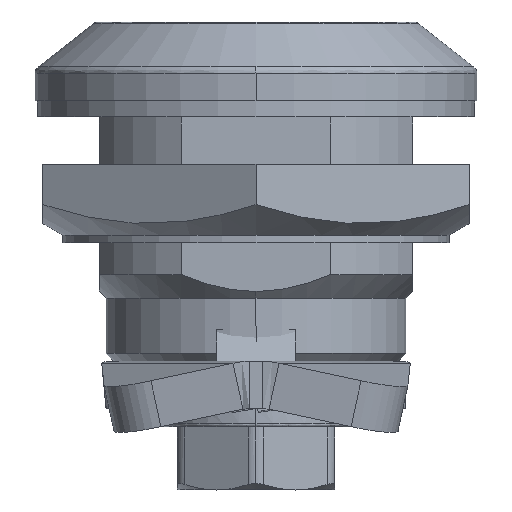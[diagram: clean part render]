
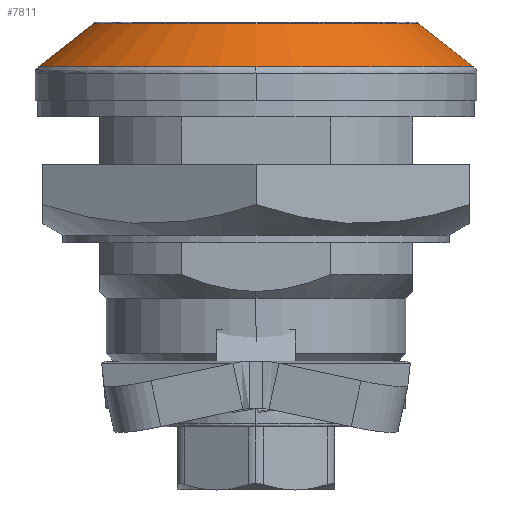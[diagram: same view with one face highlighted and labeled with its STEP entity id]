
A CAD part, left-side view. The second image highlights one B-rep face of the part: STEP entity #7811.
In plain terms, the highlighted conical face has half-angle 51.892 degrees and reference radius 13.809 mm.
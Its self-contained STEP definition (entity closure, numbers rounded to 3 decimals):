
#66 = VERTEX_POINT ( 'NONE', #2121 ) ;
#128 = CARTESIAN_POINT ( 'NONE',  ( 0., -13.809, -3.15 ) ) ;
#719 = AXIS2_PLACEMENT_3D ( 'NONE', #1630, #8653, #2644 ) ;
#746 = CARTESIAN_POINT ( 'NONE',  ( 0., 13.809, -3.15 ) ) ;
#769 = CARTESIAN_POINT ( 'NONE',  ( -10.311, 0., -5.893 ) ) ;
#878 = CIRCLE ( 'NONE', #11487, 13.809 ) ;
#930 = CARTESIAN_POINT ( 'NONE',  ( 0., 0., -3.15 ) ) ;
#977 = DIRECTION ( 'NONE',  ( 0., 0.787, 0.617 ) ) ;
#1006 = AXIS2_PLACEMENT_3D ( 'NONE', #10349, #4321, #11352 ) ;
#1044 = VECTOR ( 'NONE', #977, 1000. ) ;
#1531 = ORIENTED_EDGE ( 'NONE', *, *, #11430, .T. ) ;
#1630 = CARTESIAN_POINT ( 'NONE',  ( 0., 0., -3.15 ) ) ;
#1728 = EDGE_LOOP ( 'NONE', ( #10389, #3548, #11573, #7282, #1531, #7684 ) ) ;
#2121 = CARTESIAN_POINT ( 'NONE',  ( 0., 10.311, -5.893 ) ) ;
#2308 = CIRCLE ( 'NONE', #1006, 10.311 ) ;
#2592 = LINE ( 'NONE', #7763, #10285 ) ;
#2644 = DIRECTION ( 'NONE',  ( 1., 0., 0. ) ) ;
#2896 = DIRECTION ( 'NONE',  ( 0., 0., -1. ) ) ;
#3009 = CARTESIAN_POINT ( 'NONE',  ( 0., -10.311, -5.893 ) ) ;
#3096 = CIRCLE ( 'NONE', #719, 13.809 ) ;
#3323 = VERTEX_POINT ( 'NONE', #128 ) ;
#3548 = ORIENTED_EDGE ( 'NONE', *, *, #6944, .F. ) ;
#4321 = DIRECTION ( 'NONE',  ( 0., 0., -1. ) ) ;
#4369 = EDGE_CURVE ( 'NONE', #10080, #3323, #2592, .T. ) ;
#4769 = CARTESIAN_POINT ( 'NONE',  ( 0., 0., -3.15 ) ) ;
#4814 = DIRECTION ( 'NONE',  ( 0., -0.787, 0.617 ) ) ;
#5281 = EDGE_CURVE ( 'NONE', #10080, #6532, #12791, .T. ) ;
#5431 = FACE_OUTER_BOUND ( 'NONE', #1728, .T. ) ;
#5805 = DIRECTION ( 'NONE',  ( 1., 0., 0. ) ) ;
#6532 = VERTEX_POINT ( 'NONE', #769 ) ;
#6544 = CARTESIAN_POINT ( 'NONE',  ( -13.809, 0., -3.15 ) ) ;
#6944 = EDGE_CURVE ( 'NONE', #6532, #66, #2308, .T. ) ;
#6957 = AXIS2_PLACEMENT_3D ( 'NONE', #8875, #2896, #9906 ) ;
#7282 = ORIENTED_EDGE ( 'NONE', *, *, #4369, .T. ) ;
#7684 = ORIENTED_EDGE ( 'NONE', *, *, #11823, .T. ) ;
#7705 = VERTEX_POINT ( 'NONE', #746 ) ;
#7763 = CARTESIAN_POINT ( 'NONE',  ( 0., -13.809, -3.15 ) ) ;
#7811 = ADVANCED_FACE ( 'NONE', ( #5431 ), #12837, .T. ) ;
#7923 = DIRECTION ( 'NONE',  ( 0., 0., 1. ) ) ;
#7980 = CARTESIAN_POINT ( 'NONE',  ( 0., 13.809, -3.15 ) ) ;
#8653 = DIRECTION ( 'NONE',  ( 0., 0., -1. ) ) ;
#8875 = CARTESIAN_POINT ( 'NONE',  ( 0., 0., -5.893 ) ) ;
#8900 = DIRECTION ( 'NONE',  ( 0., -1., 0. ) ) ;
#9347 = LINE ( 'NONE', #7980, #1044 ) ;
#9906 = DIRECTION ( 'NONE',  ( -1., 0., 0. ) ) ;
#10080 = VERTEX_POINT ( 'NONE', #3009 ) ;
#10285 = VECTOR ( 'NONE', #4814, 1000. ) ;
#10349 = CARTESIAN_POINT ( 'NONE',  ( 0., 0., -5.893 ) ) ;
#10351 = AXIS2_PLACEMENT_3D ( 'NONE', #930, #7923, #8900 ) ;
#10375 = VERTEX_POINT ( 'NONE', #6544 ) ;
#10389 = ORIENTED_EDGE ( 'NONE', *, *, #11099, .F. ) ;
#11099 = EDGE_CURVE ( 'NONE', #66, #7705, #9347, .T. ) ;
#11352 = DIRECTION ( 'NONE',  ( -1., 0., 0. ) ) ;
#11430 = EDGE_CURVE ( 'NONE', #3323, #10375, #878, .T. ) ;
#11487 = AXIS2_PLACEMENT_3D ( 'NONE', #4769, #11812, #5805 ) ;
#11573 = ORIENTED_EDGE ( 'NONE', *, *, #5281, .F. ) ;
#11812 = DIRECTION ( 'NONE',  ( 0., 0., -1. ) ) ;
#11823 = EDGE_CURVE ( 'NONE', #10375, #7705, #3096, .T. ) ;
#12791 = CIRCLE ( 'NONE', #6957, 10.311 ) ;
#12837 = CONICAL_SURFACE ( 'NONE', #10351, 13.809, 0.906 ) ;
